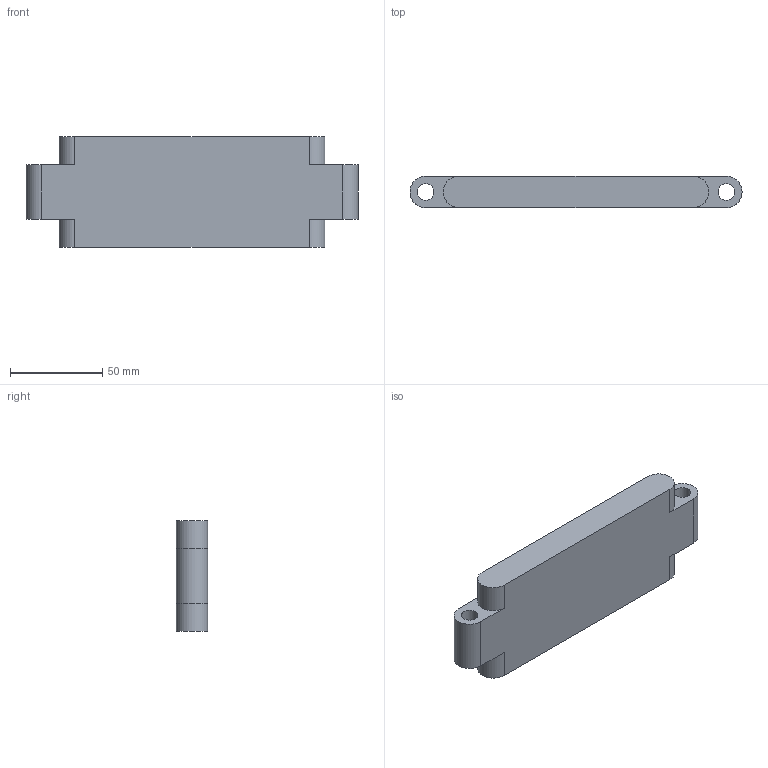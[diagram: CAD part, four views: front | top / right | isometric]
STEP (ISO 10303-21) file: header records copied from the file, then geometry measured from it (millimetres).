
FILE_DESCRIPTION(/* description */ (''),/* implementation_level */ '2;1');
FILE_NAME(/* name */ 'E:/3D Design/3D Prints/Tablet Wall Mount/STEP Files/Arm.stp',/* time_stamp */ '2017-09-21T22:04:23-05:00',/* author */ (''),/* organization */ (''),/* preprocessor_version */ 'ST-DEVELOPER v16.13',/* originating_system */ 'Autodesk Translation Framework v6.1.1.50',/* authorisation */ '');
FILE_SCHEMA (('AUTOMOTIVE_DESIGN { 1 0 10303 214 3 1 1 }'));
Length unit declared in the file: millimetre
Products named in the file (1): Arm
Bounding box: 180 x 17 x 60 mm (x, y, z)
Volume: 157410.9 mm3; surface area: 27965.2 mm2
Topology: 1 solids, 1 shells, 16 faces, 42 edges, 28 vertices
Faces by surface type: cylinder 8, plane 8
Full cylindrical faces by diameter (mm): 9 x2
Entity records: 522 total; most frequent: DIRECTION 90, CARTESIAN_POINT 85, ORIENTED_EDGE 80, EDGE_CURVE 40, AXIS2_PLACEMENT_3D 33, VERTEX_POINT 28, LINE 24, VECTOR 24
